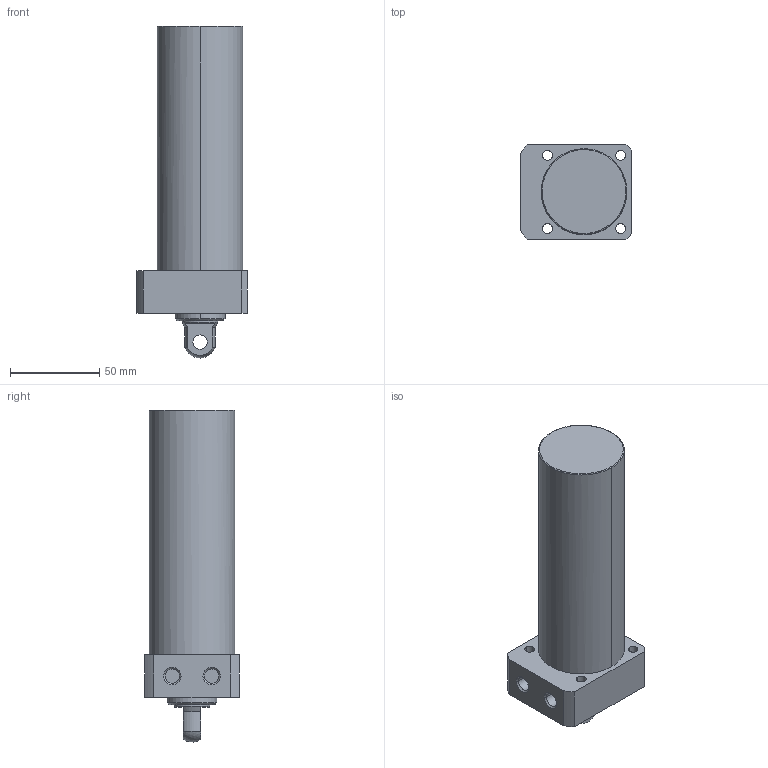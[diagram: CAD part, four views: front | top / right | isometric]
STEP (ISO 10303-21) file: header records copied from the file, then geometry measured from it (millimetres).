
FILE_DESCRIPTION((' '),'2;1');
FILE_NAME( 'TLLR-048CP-110.STEP.stp', '2025-10-24T16:34:40', (' '), ('--- Datakit www.datakit.com---'), ' Datakit CrossCadWare V2024.1 Dec 21 2023', 'Mastercam 2025', ' ');
FILE_SCHEMA(('AUTOMOTIVE_DESIGN { 1 0 10303 214 1 1 1 1 }'));
Length unit declared in the file: millimetre
Products named in the file (1): TLLR-048CP-110
Bounding box: 62 x 53 x 185.94 mm (x, y, z)
Volume: 327397 mm3; surface area: 36065.6 mm2
Topology: 1 solids, 1 shells, 57 faces, 164 edges, 116 vertices
Faces by surface type: cylinder 28, plane 18, cone 8, torus 2, sphere 1
Entity records: 2006 total; most frequent: DIRECTION 378, CARTESIAN_POINT 350, ORIENTED_EDGE 328, EDGE_CURVE 164, AXIS2_PLACEMENT_3D 160, VERTEX_POINT 116, CIRCLE 102, EDGE_LOOP 74
